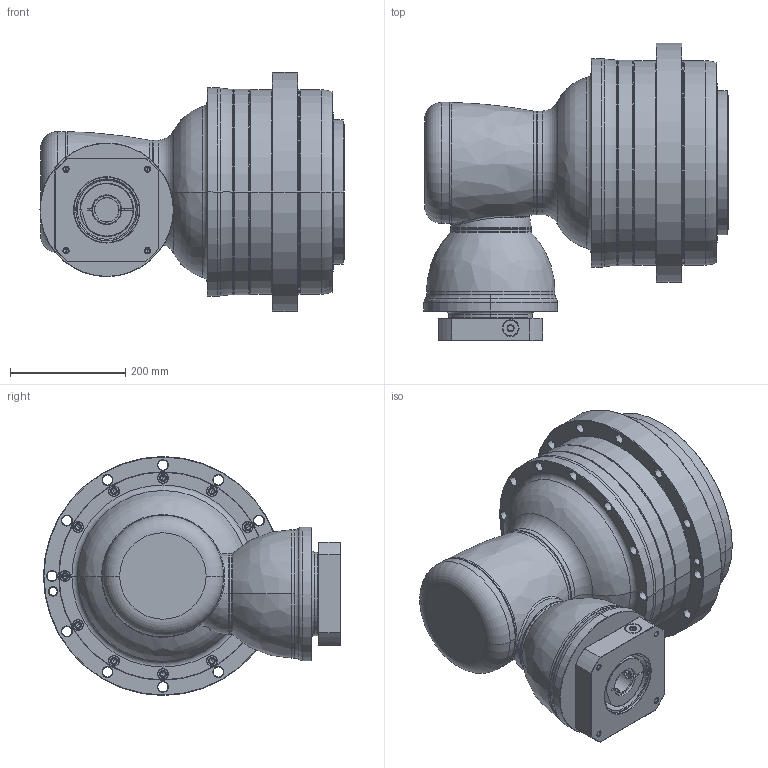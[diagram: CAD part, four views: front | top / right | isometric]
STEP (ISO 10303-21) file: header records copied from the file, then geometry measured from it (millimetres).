
FILE_DESCRIPTION((''),'2;1');
FILE_NAME('AHKA355_3ST_42-P0409A00101_ASM','2016-12-07T',('d01943'),(''),'PRO/ENGINEER BY PARAMETRIC TECHNOLOGY CORPORATION, 2008410','PRO/ENGINEER BY PARAMETRIC TECHNOLOGY CORPORATION, 2008410','');
FILE_SCHEMA(('CONFIG_CONTROL_DESIGN'));
Length unit declared in the file: millimetre
Products named in the file (12): P1008600002; P1821100001; P0276100003; P0357100003; P1315600001; P1007600001; P1318600301; P0409A00101; P0503A00012; P0912603201; 21711422019; AHKA355_3ST_42-P0409A00101_ASM
Assembly tree (11 placements, depth 2):
  AHKA355_3ST_42-P0409A00101_ASM
    P1008600002
    P1821100001
    P0276100003
    P0357100003
    P1315600001
    P1007600001
    P1318600301
    P0409A00101
    P0503A00012
    P0912603201
    21711422019
Bounding box: 528 x 516 x 415 mm (x, y, z)
Volume: 36528929.4 mm3; surface area: 1785707.2 mm2
Topology: 12 solids, 12 shells, 953 faces, 2117 edges, 1225 vertices
Faces by surface type: cylinder 334, cone 330, torus 128, plane 124, bspline 35, sphere 2
Entity records: 32547 total; most frequent: CARTESIAN_POINT 10779, DIRECTION 5018, ORIENTED_EDGE 4122, AXIS2_PLACEMENT_3D 2144, EDGE_CURVE 2061, VERTEX_POINT 1225, CIRCLE 1203, EDGE_LOOP 1146
